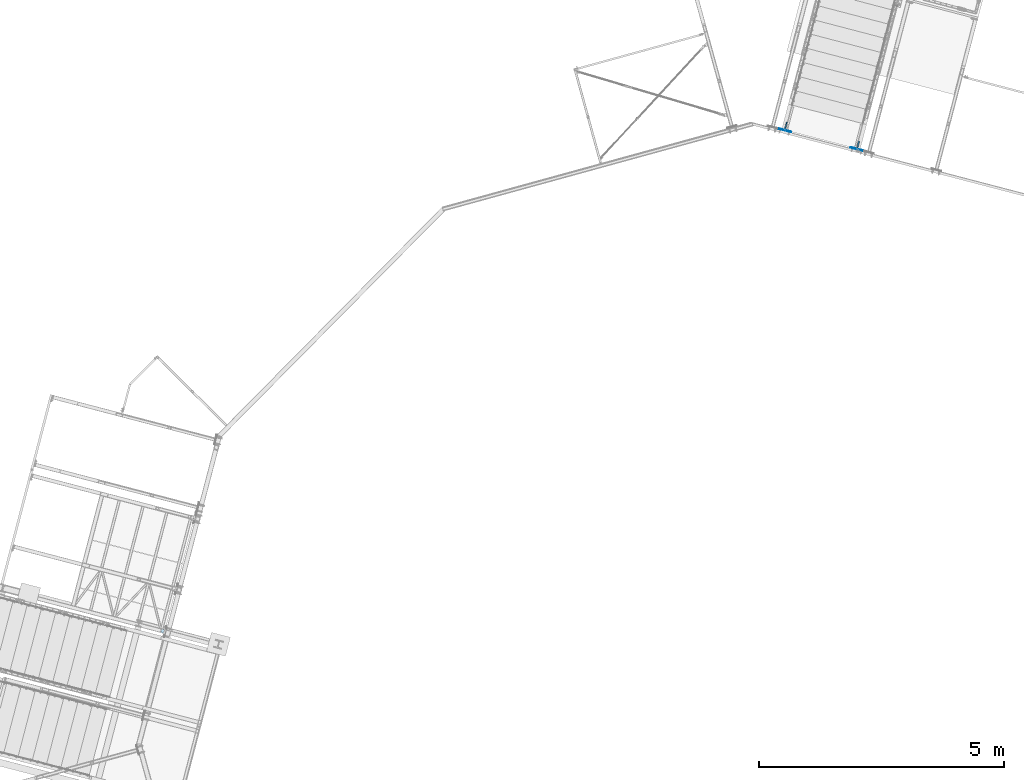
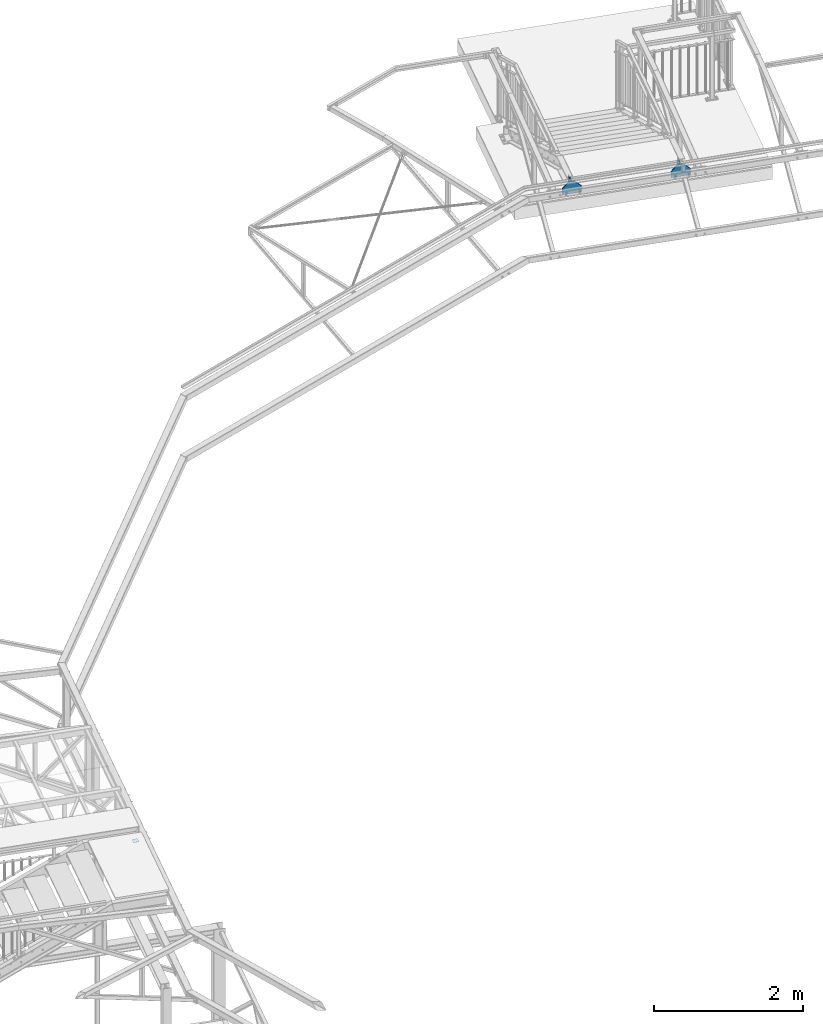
# One storey, part 28 of 169: 5 plates, 5 elements without a shape of their own.
"""IFC2X3 building model written with IfcOpenShell, lengths in millimetres."""

from ifc_helpers import new_model, si_unit, frame, origin_with_axes, place, context, subcontext, project, spatial, polyline, outline, extrude, boolean, material, type_object, element, aggregate, save


model = new_model("IFC2X3")

# Units and contexts
model_context = context("Model", 3, precision=1e-05, world=origin_with_axes())
body_context = subcontext(model_context, "Body", "Model", "MODEL_VIEW")
ifc_project = project(units=[si_unit("LENGTHUNIT", "METRE", prefix="MILLI"), si_unit("AREAUNIT", "SQUARE_METRE"), si_unit("VOLUMEUNIT", "CUBIC_METRE"), si_unit("MASSUNIT", "GRAM", prefix="KILO"), si_unit("TIMEUNIT", "SECOND"), si_unit("PLANEANGLEUNIT", "RADIAN"), si_unit("SOLIDANGLEUNIT", "STERADIAN"), si_unit("THERMODYNAMICTEMPERATUREUNIT", "DEGREE_CELSIUS"), si_unit("LUMINOUSINTENSITYUNIT", "LUMEN")], contexts=[model_context])

# Site, building, storey
site_placement = place(None, origin_with_axes())
site = spatial("IfcSite", under=ifc_project, at=site_placement, Name="Undefined", CompositionType="ELEMENT")
building_placement = place(site_placement, origin_with_axes())
building = spatial("IfcBuilding", under=site, at=building_placement, Name="Undefined", CompositionType="ELEMENT")
storey_placement = place(building_placement, origin_with_axes())
storey = spatial("IfcBuildingStorey", under=building, at=storey_placement, Name="Undefined", CompositionType="ELEMENT", Elevation=0.0)

# Assembly, plate
assembly_1_placement = place(storey_placement, origin_with_axes())
assembly_1 = element("IfcElementAssembly", 1, at=assembly_1_placement, inside=storey, Name="Steel Assembly", AssemblyPlace="NOTDEFINED", PredefinedType="RIGID_FRAME")
ifc_material = material(Name="STEEL/S235")
plate_type_1 = type_object("IfcPlateType", Name="BL3*80", PredefinedType="NOTDEFINED")
plate_1_placement = place(assembly_1_placement, frame((-23589.7740173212, 7948.77257168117, 13775.3141385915), z_axis=(5.90399999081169e-06, 0.000139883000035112, 0.999999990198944), x_axis=(-0.967563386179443, 0.252628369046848, -2.9626000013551e-05)))
plate_1 = element("IfcPlate", 2, at=plate_1_placement, type_object=plate_type_1, material=ifc_material, Name="BLACHA", ObjectType="BL3*80", context=body_context, shape_type="SweptSolid", body=[
    extrude(outline(polyline([(0.0, 0.0), (80.0000000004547, 5.02041075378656e-10), (80.0000000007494, 80.0000000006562), (1.40171323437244e-08, 80.0000000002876), (0.0, 0.0)])), frame((1.81898940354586e-12, -1.77635442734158e-15, -1.50000000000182), z_axis=(0.0, 0.0, 1.0), x_axis=(1.0, 0.0, 0.0)), (0.0, 0.0, 1.0), 3.0),
])
aggregate(assembly_1, [plate_1])

assembly_2_placement = place(storey_placement, origin_with_axes())
assembly_2 = element("IfcElementAssembly", 3, at=assembly_2_placement, inside=storey, Name="Steel Assembly", AssemblyPlace="NOTDEFINED", PredefinedType="RIGID_FRAME")
plate_type_2 = type_object("IfcPlateType", Name="BL16*195", PredefinedType="NOTDEFINED")
plate_2_placement = place(assembly_2_placement, frame((-9361.73083246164, 17713.8188564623, 13975.4804586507), z_axis=(0.252628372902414, 0.967563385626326, 0.0), x_axis=(-2.54700353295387e-10, 0.0, -1.0)))
plate_2 = element("IfcPlate", 4, at=plate_2_placement, type_object=plate_type_2, material=ifc_material, Name="BLACHA", ObjectType="BL16*195", context=body_context, shape_type="CSG", body=[
    boolean("DIFFERENCE", boolean("DIFFERENCE", extrude(outline(polyline([(0.0, 0.0), (194.999999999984, 5.82076609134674e-11), (194.999999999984, 269.999999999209), (-5.46424416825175e-09, 269.999999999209), (0.0, 0.0)])), frame((4.54778590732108e-13, 0.0, -8.0), z_axis=(0.0, 0.0, 1.0), x_axis=(1.0, 0.0, 0.0)), (0.0, 0.0, 1.0), 16.0), extrude(outline(polyline([(0.0, 0.0), (94.9999999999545, 3.63797880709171e-12), (-8.18545231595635e-11, 95.0000000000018), (0.0, 0.0)])), frame((-3.29418980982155e-09, 270.000000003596, -11.99999997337), z_axis=(0.0, 0.0, 1.0), x_axis=(1.73472347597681e-18, -1.0, 0.0)), (0.0, 0.0, 1.0), 20.0)), extrude(outline(polyline([(0.0, 0.0), (94.9999999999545, 3.63797880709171e-12), (-8.18545231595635e-11, 95.0000000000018), (0.0, 0.0)])), frame((6.00266503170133e-11, 4.40573971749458e-09, 8.00000005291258), z_axis=(-2.54700353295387e-10, 0.0, -1.0), x_axis=(0.0, 1.0, 0.0)), (0.0, 0.0, 1.0), 20.0)),
])
aggregate(assembly_2, [plate_2])

assembly_3_placement = place(storey_placement, origin_with_axes())
assembly_3 = element("IfcElementAssembly", 5, at=assembly_3_placement, inside=storey, Name="Steel Assembly", AssemblyPlace="NOTDEFINED", PredefinedType="RIGID_FRAME")
plate_3_placement = place(assembly_3_placement, frame((-11094.6368557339, 18166.2762722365, 13975.4804586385), z_axis=(-0.252628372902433, -0.967563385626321, 0.0), x_axis=(-2.54700353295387e-10, 0.0, -1.0)))
plate_3 = element("IfcPlate", 6, at=plate_3_placement, type_object=plate_type_2, material=ifc_material, Name="BLACHA", ObjectType="BL16*195", context=body_context, shape_type="CSG", body=[
    boolean("DIFFERENCE", boolean("DIFFERENCE", extrude(outline(polyline([(0.0, 0.0), (194.999999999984, 5.82076609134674e-11), (194.999999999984, 269.999999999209), (-5.46424416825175e-09, 269.999999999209), (0.0, 0.0)])), frame((4.54778590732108e-13, 0.0, -8.0), z_axis=(0.0, 0.0, 1.0), x_axis=(1.0, 0.0, 0.0)), (0.0, 0.0, 1.0), 16.0), extrude(outline(polyline([(0.0, 0.0), (94.9999999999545, 3.63797880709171e-12), (94.999999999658, 95.0), (0.0, 0.0)])), frame((-6.20821083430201e-09, 174.999999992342, 11.9999999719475), z_axis=(-2.54700353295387e-10, 0.0, -1.0), x_axis=(0.0, 1.0, 0.0)), (0.0, 0.0, 1.0), 20.0)), extrude(outline(polyline([(0.0, 0.0), (94.9999999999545, 3.63797880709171e-12), (-8.18545231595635e-11, 95.0000000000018), (0.0, 0.0)])), frame((2.7648638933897e-10, -6.85929663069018e-09, 11.9999999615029), z_axis=(-2.54700353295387e-10, 0.0, -1.0), x_axis=(0.0, 1.0, 0.0)), (0.0, 0.0, 1.0), 20.0)),
])
aggregate(assembly_3, [plate_3])

assembly_4_placement = place(storey_placement, origin_with_axes())
assembly_4 = element("IfcElementAssembly", 7, at=assembly_4_placement, inside=storey, Name="Steel Assembly", AssemblyPlace="NOTDEFINED", PredefinedType="RIGID_FRAME")
plate_type_3 = type_object("IfcPlateType", Name="BL16*100", PredefinedType="NOTDEFINED")
plate_4_placement = place(assembly_4_placement, frame((-9450.16295120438, 17909.5067722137, 13975.4176077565), z_axis=(0.967563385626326, -0.252628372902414, 0.0), x_axis=(-0.252628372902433, -0.967563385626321, 0.0)))
plate_4 = element("IfcPlate", 8, at=plate_4_placement, type_object=plate_type_3, material=ifc_material, Name="BLACHA", ObjectType="BL16*100", context=body_context, shape_type="SweptSolid", body=[
    extrude(outline(polyline([(0.0, 0.0), (159.000000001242, 1.12777343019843e-10), (159.000000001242, 100.000000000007), (4.00177668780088e-11, 100.000000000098), (0.0, 0.0)])), frame((4.54778590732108e-13, 0.0, -8.0), z_axis=(0.0, 0.0, 1.0), x_axis=(1.0, 0.0, 0.0)), (0.0, 0.0, 1.0), 16.0),
])
aggregate(assembly_4, [plate_4])

assembly_5_placement = place(storey_placement, origin_with_axes())
assembly_5 = element("IfcElementAssembly", 9, at=assembly_5_placement, inside=storey, Name="Steel Assembly", AssemblyPlace="NOTDEFINED", PredefinedType="RIGID_FRAME")
plate_5_placement = place(assembly_5_placement, frame((-10921.8268604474, 18293.7545273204, 13975.4176077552), z_axis=(0.967563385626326, -0.252628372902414, 0.0), x_axis=(-0.252628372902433, -0.967563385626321, 0.0)))
plate_5 = element("IfcPlate", 10, at=plate_5_placement, type_object=plate_type_3, material=ifc_material, Name="BLACHA", ObjectType="BL16*100", context=body_context, shape_type="SweptSolid", body=[
    extrude(outline(polyline([(0.0, 0.0), (159.000000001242, 1.12777343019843e-10), (159.000000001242, 100.000000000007), (4.00177668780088e-11, 100.000000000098), (0.0, 0.0)])), frame((4.54778590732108e-13, 0.0, -8.0), z_axis=(0.0, 0.0, 1.0), x_axis=(1.0, 0.0, 0.0)), (0.0, 0.0, 1.0), 16.0),
])
aggregate(assembly_5, [plate_5])

save(model, "model.ifc")
